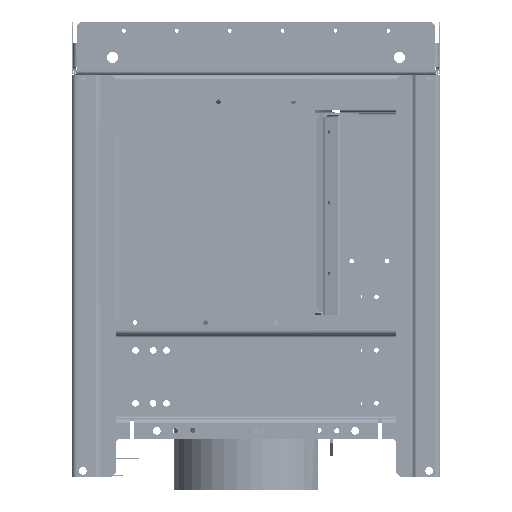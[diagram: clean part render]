
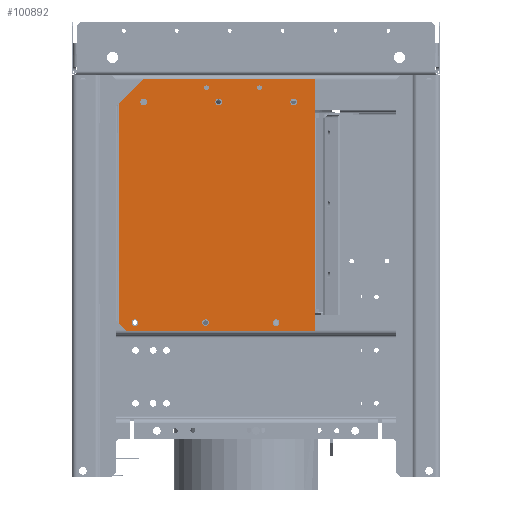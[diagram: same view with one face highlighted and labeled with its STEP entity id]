
A CAD part, left-side view. The second image highlights one B-rep face of the part: STEP entity #100892.
In plain terms, the highlighted planar face has unit normal (-1, 0, 0) as drawn and (0, 0, -1) by its records, which use the part's own axes.
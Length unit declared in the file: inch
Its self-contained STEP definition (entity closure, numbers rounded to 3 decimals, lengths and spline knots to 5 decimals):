
#99544=DIRECTION('',(0.,1.,0.));
#99545=VECTOR('',#99544,9.69707);
#99546=CARTESIAN_POINT('',(-7.13,9.22975,-0.0396));
#99547=LINE('',#99546,#99545);
#99548=DIRECTION('',(-1.,0.,0.));
#99549=VECTOR('',#99548,2.2);
#99550=CARTESIAN_POINT('',(-4.93,9.22975,-0.0396));
#99551=LINE('',#99550,#99549);
#99748=DIRECTION('',(0.,-1.,0.));
#99749=VECTOR('',#99748,10.69707);
#99750=CARTESIAN_POINT('',(7.13,19.92682,-0.0396));
#99751=LINE('',#99750,#99749);
#99823=DIRECTION('',(1.,0.,0.));
#99824=VECTOR('',#99823,12.4248);
#99825=CARTESIAN_POINT('',(-5.7124,20.34442,-0.0396));
#99826=LINE('',#99825,#99824);
#99846=DIRECTION('',(-0.707,-0.707,0.));
#99847=VECTOR('',#99846,2.00479);
#99848=CARTESIAN_POINT('',(-5.7124,20.34442,-0.0396));
#99849=LINE('',#99848,#99847);
#99850=DIRECTION('',(1.,0.,0.));
#99851=VECTOR('',#99850,1.25);
#99852=CARTESIAN_POINT('',(5.88,9.22975,-0.0396));
#99853=LINE('',#99852,#99851);
#99854=DIRECTION('',(-0.707,0.707,0.));
#99855=VECTOR('',#99854,0.59058);
#99856=CARTESIAN_POINT('',(7.13,19.92682,-0.0396));
#99857=LINE('',#99856,#99855);
#99858=CARTESIAN_POINT('',(-5.83,14.67402,-0.0396));
#99859=DIRECTION('',(0.,0.,-1.));
#99860=DIRECTION('',(-1.,0.,0.));
#99861=AXIS2_PLACEMENT_3D('',#99858,#99859,#99860);
#99863=CARTESIAN_POINT('',(-5.83,14.67402,-0.0396));
#99864=DIRECTION('',(0.,0.,-1.));
#99865=DIRECTION('',(1.,0.,0.));
#99866=AXIS2_PLACEMENT_3D('',#99863,#99864,#99865);
#99868=CARTESIAN_POINT('',(-5.83,10.42402,-0.0396));
#99869=DIRECTION('',(0.,0.,-1.));
#99870=DIRECTION('',(-1.,0.,0.));
#99871=AXIS2_PLACEMENT_3D('',#99868,#99869,#99870);
#99873=CARTESIAN_POINT('',(-5.83,10.42402,-0.0396));
#99874=DIRECTION('',(0.,0.,-1.));
#99875=DIRECTION('',(1.,0.,0.));
#99876=AXIS2_PLACEMENT_3D('',#99873,#99874,#99875);
#99878=CARTESIAN_POINT('',(6.68,19.41402,-0.0396));
#99879=DIRECTION('',(0.,0.,-1.));
#99880=DIRECTION('',(-1.,0.,0.));
#99881=AXIS2_PLACEMENT_3D('',#99878,#99879,#99880);
#99883=CARTESIAN_POINT('',(6.68,19.41402,-0.0396));
#99884=DIRECTION('',(0.,0.,-1.));
#99885=DIRECTION('',(1.,0.,0.));
#99886=AXIS2_PLACEMENT_3D('',#99883,#99884,#99885);
#99888=CARTESIAN_POINT('',(6.68,15.41402,-0.0396));
#99889=DIRECTION('',(0.,0.,-1.));
#99890=DIRECTION('',(-1.,0.,0.));
#99891=AXIS2_PLACEMENT_3D('',#99888,#99889,#99890);
#99893=CARTESIAN_POINT('',(6.68,15.41402,-0.0396));
#99894=DIRECTION('',(0.,0.,-1.));
#99895=DIRECTION('',(1.,0.,0.));
#99896=AXIS2_PLACEMENT_3D('',#99893,#99894,#99895);
#99898=CARTESIAN_POINT('',(6.68,11.41402,-0.0396));
#99899=DIRECTION('',(0.,0.,-1.));
#99900=DIRECTION('',(-1.,0.,0.));
#99901=AXIS2_PLACEMENT_3D('',#99898,#99899,#99900);
#99903=CARTESIAN_POINT('',(6.68,11.41402,-0.0396));
#99904=DIRECTION('',(0.,0.,-1.));
#99905=DIRECTION('',(1.,0.,0.));
#99906=AXIS2_PLACEMENT_3D('',#99903,#99904,#99905);
#99908=CARTESIAN_POINT('',(-6.63,15.35975,-0.0396));
#99909=DIRECTION('',(0.,0.,-1.));
#99910=DIRECTION('',(1.,0.,0.));
#99911=AXIS2_PLACEMENT_3D('',#99908,#99909,#99910);
#99913=CARTESIAN_POINT('',(-6.63,15.35975,-0.0396));
#99914=DIRECTION('',(0.,0.,-1.));
#99915=DIRECTION('',(-1.,0.,0.));
#99916=AXIS2_PLACEMENT_3D('',#99913,#99914,#99915);
#99918=CARTESIAN_POINT('',(-6.63,12.35975,-0.0396));
#99919=DIRECTION('',(0.,0.,-1.));
#99920=DIRECTION('',(1.,0.,0.));
#99921=AXIS2_PLACEMENT_3D('',#99918,#99919,#99920);
#99923=CARTESIAN_POINT('',(-6.63,12.35975,-0.0396));
#99924=DIRECTION('',(0.,0.,-1.));
#99925=DIRECTION('',(-1.,0.,0.));
#99926=AXIS2_PLACEMENT_3D('',#99923,#99924,#99925);
#99928=CARTESIAN_POINT('',(-5.83,18.92402,-0.0396));
#99929=DIRECTION('',(0.,0.,-1.));
#99930=DIRECTION('',(-1.,0.,0.));
#99931=AXIS2_PLACEMENT_3D('',#99928,#99929,#99930);
#99933=CARTESIAN_POINT('',(-5.83,18.92402,-0.0396));
#99934=DIRECTION('',(0.,0.,-1.));
#99935=DIRECTION('',(1.,0.,0.));
#99936=AXIS2_PLACEMENT_3D('',#99933,#99934,#99935);
#99942=DIRECTION('',(-1.,0.,0.));
#99943=VECTOR('',#99942,10.81);
#99944=CARTESIAN_POINT('',(5.88,9.22975,-0.0396));
#99945=LINE('',#99944,#99943);
#100197=CARTESIAN_POINT('',(-5.64,18.92402,-0.0396));
#100198=VERTEX_POINT('',#100197);
#100199=CARTESIAN_POINT('',(-6.02,18.92402,-0.0396));
#100200=VERTEX_POINT('',#100199);
#100201=CARTESIAN_POINT('',(-5.7124,20.34442,-0.0396));
#100202=CARTESIAN_POINT('',(-7.13,18.92682,-0.0396));
#100203=VERTEX_POINT('',#100201);
#100204=VERTEX_POINT('',#100202);
#100205=CARTESIAN_POINT('',(-7.13,9.22975,-0.0396));
#100206=VERTEX_POINT('',#100205);
#100207=CARTESIAN_POINT('',(-4.93,9.22975,-0.0396));
#100208=VERTEX_POINT('',#100207);
#100209=CARTESIAN_POINT('',(5.88,9.22975,-0.0396));
#100210=VERTEX_POINT('',#100209);
#100211=CARTESIAN_POINT('',(7.13,9.22975,-0.0396));
#100212=VERTEX_POINT('',#100211);
#100213=CARTESIAN_POINT('',(7.13,19.92682,-0.0396));
#100214=VERTEX_POINT('',#100213);
#100215=CARTESIAN_POINT('',(6.7124,20.34442,-0.0396));
#100216=VERTEX_POINT('',#100215);
#100217=CARTESIAN_POINT('',(-6.02,14.67402,-0.0396));
#100218=CARTESIAN_POINT('',(-5.64,14.67402,-0.0396));
#100219=VERTEX_POINT('',#100217);
#100220=VERTEX_POINT('',#100218);
#100221=CARTESIAN_POINT('',(-6.02,10.42402,-0.0396));
#100222=CARTESIAN_POINT('',(-5.64,10.42402,-0.0396));
#100223=VERTEX_POINT('',#100221);
#100224=VERTEX_POINT('',#100222);
#100225=CARTESIAN_POINT('',(6.49,19.41402,-0.0396));
#100226=CARTESIAN_POINT('',(6.87,19.41402,-0.0396));
#100227=VERTEX_POINT('',#100225);
#100228=VERTEX_POINT('',#100226);
#100229=CARTESIAN_POINT('',(6.49,15.41402,-0.0396));
#100230=CARTESIAN_POINT('',(6.87,15.41402,-0.0396));
#100231=VERTEX_POINT('',#100229);
#100232=VERTEX_POINT('',#100230);
#100233=CARTESIAN_POINT('',(6.49,11.41402,-0.0396));
#100234=CARTESIAN_POINT('',(6.87,11.41402,-0.0396));
#100235=VERTEX_POINT('',#100233);
#100236=VERTEX_POINT('',#100234);
#100237=CARTESIAN_POINT('',(-6.49,15.35975,-0.0396));
#100238=CARTESIAN_POINT('',(-6.77,15.35975,-0.0396));
#100239=VERTEX_POINT('',#100237);
#100240=VERTEX_POINT('',#100238);
#100241=CARTESIAN_POINT('',(-6.49,12.35975,-0.0396));
#100242=CARTESIAN_POINT('',(-6.77,12.35975,-0.0396));
#100243=VERTEX_POINT('',#100241);
#100244=VERTEX_POINT('',#100242);
#100828=CARTESIAN_POINT('',(0.,0.,-0.0396));
#100829=DIRECTION('',(0.,0.,1.));
#100830=DIRECTION('',(1.,0.,0.));
#100831=AXIS2_PLACEMENT_3D('',#100828,#100829,#100830);
#100832=PLANE('',#100831);
#100833=ORIENTED_EDGE('',*,*,#100407,.T.);
#100834=ORIENTED_EDGE('',*,*,#100423,.F.);
#100835=ORIENTED_EDGE('',*,*,#100436,.F.);
#100837=ORIENTED_EDGE('',*,*,#100836,.F.);
#100838=ORIENTED_EDGE('',*,*,#100665,.T.);
#100839=ORIENTED_EDGE('',*,*,#100678,.F.);
#100840=ORIENTED_EDGE('',*,*,#100693,.T.);
#100841=ORIENTED_EDGE('',*,*,#100820,.F.);
#100842=EDGE_LOOP('',(#100833,#100834,#100835,#100837,#100838,#100839,#100840,
#100841));
#100843=FACE_OUTER_BOUND('',#100842,.F.);
#100845=ORIENTED_EDGE('',*,*,#100844,.T.);
#100847=ORIENTED_EDGE('',*,*,#100846,.T.);
#100848=EDGE_LOOP('',(#100845,#100847));
#100849=FACE_BOUND('',#100848,.F.);
#100851=ORIENTED_EDGE('',*,*,#100850,.T.);
#100853=ORIENTED_EDGE('',*,*,#100852,.T.);
#100854=EDGE_LOOP('',(#100851,#100853));
#100855=FACE_BOUND('',#100854,.F.);
#100857=ORIENTED_EDGE('',*,*,#100856,.T.);
#100859=ORIENTED_EDGE('',*,*,#100858,.T.);
#100860=EDGE_LOOP('',(#100857,#100859));
#100861=FACE_BOUND('',#100860,.F.);
#100863=ORIENTED_EDGE('',*,*,#100862,.T.);
#100865=ORIENTED_EDGE('',*,*,#100864,.T.);
#100866=EDGE_LOOP('',(#100863,#100865));
#100867=FACE_BOUND('',#100866,.F.);
#100869=ORIENTED_EDGE('',*,*,#100868,.T.);
#100871=ORIENTED_EDGE('',*,*,#100870,.T.);
#100872=EDGE_LOOP('',(#100869,#100871));
#100873=FACE_BOUND('',#100872,.F.);
#100875=ORIENTED_EDGE('',*,*,#100874,.T.);
#100877=ORIENTED_EDGE('',*,*,#100876,.T.);
#100878=EDGE_LOOP('',(#100875,#100877));
#100879=FACE_BOUND('',#100878,.F.);
#100881=ORIENTED_EDGE('',*,*,#100880,.T.);
#100883=ORIENTED_EDGE('',*,*,#100882,.T.);
#100884=EDGE_LOOP('',(#100881,#100883));
#100885=FACE_BOUND('',#100884,.F.);
#100887=ORIENTED_EDGE('',*,*,#100886,.T.);
#100889=ORIENTED_EDGE('',*,*,#100888,.T.);
#100890=EDGE_LOOP('',(#100887,#100889));
#100891=FACE_BOUND('',#100890,.F.);
#100892=ADVANCED_FACE('',(#100843,#100849,#100855,#100861,#100867,#100873,
#100879,#100885,#100891),#100832,.F.);
#99862=CIRCLE('',#99861,0.19);
#99867=CIRCLE('',#99866,0.19);
#99872=CIRCLE('',#99871,0.19);
#99877=CIRCLE('',#99876,0.19);
#99882=CIRCLE('',#99881,0.19);
#99887=CIRCLE('',#99886,0.19);
#99892=CIRCLE('',#99891,0.19);
#99897=CIRCLE('',#99896,0.19);
#99902=CIRCLE('',#99901,0.19);
#99907=CIRCLE('',#99906,0.19);
#99912=CIRCLE('',#99911,0.14);
#99917=CIRCLE('',#99916,0.14);
#99922=CIRCLE('',#99921,0.14);
#99927=CIRCLE('',#99926,0.14);
#99932=CIRCLE('',#99931,0.19);
#99937=CIRCLE('',#99936,0.19);
#100407=EDGE_CURVE('',#100203,#100204,#99849,.T.);
#100423=EDGE_CURVE('',#100206,#100204,#99547,.T.);
#100436=EDGE_CURVE('',#100208,#100206,#99551,.T.);
#100665=EDGE_CURVE('',#100210,#100212,#99853,.T.);
#100678=EDGE_CURVE('',#100214,#100212,#99751,.T.);
#100693=EDGE_CURVE('',#100214,#100216,#99857,.T.);
#100820=EDGE_CURVE('',#100203,#100216,#99826,.T.);
#100836=EDGE_CURVE('',#100210,#100208,#99945,.T.);
#100844=EDGE_CURVE('',#100219,#100220,#99862,.T.);
#100846=EDGE_CURVE('',#100220,#100219,#99867,.T.);
#100850=EDGE_CURVE('',#100223,#100224,#99872,.T.);
#100852=EDGE_CURVE('',#100224,#100223,#99877,.T.);
#100856=EDGE_CURVE('',#100227,#100228,#99882,.T.);
#100858=EDGE_CURVE('',#100228,#100227,#99887,.T.);
#100862=EDGE_CURVE('',#100231,#100232,#99892,.T.);
#100864=EDGE_CURVE('',#100232,#100231,#99897,.T.);
#100868=EDGE_CURVE('',#100235,#100236,#99902,.T.);
#100870=EDGE_CURVE('',#100236,#100235,#99907,.T.);
#100874=EDGE_CURVE('',#100239,#100240,#99912,.T.);
#100876=EDGE_CURVE('',#100240,#100239,#99917,.T.);
#100880=EDGE_CURVE('',#100243,#100244,#99922,.T.);
#100882=EDGE_CURVE('',#100244,#100243,#99927,.T.);
#100886=EDGE_CURVE('',#100200,#100198,#99932,.T.);
#100888=EDGE_CURVE('',#100198,#100200,#99937,.T.);
